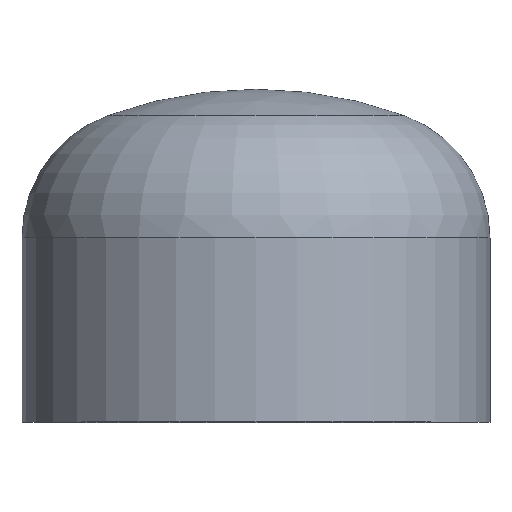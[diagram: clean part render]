
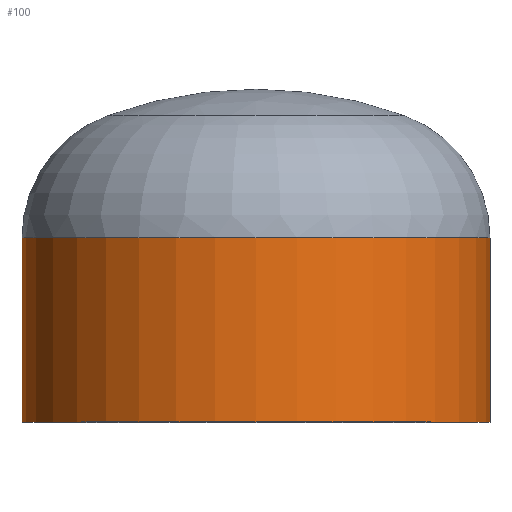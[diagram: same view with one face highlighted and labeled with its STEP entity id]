
A CAD part, top view. The second image highlights one B-rep face of the part: STEP entity #100.
In plain terms, the highlighted cylindrical face has radius 177.8 mm (diameter 355.6 mm), a partial arc.
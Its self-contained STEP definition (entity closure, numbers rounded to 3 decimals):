
#20 = ORIENTED_EDGE ( 'NONE', *, *, #154, .F. ) ;
#25 = CARTESIAN_POINT ( 'NONE',  ( -177.8, 140., 0. ) ) ;
#30 = ORIENTED_EDGE ( 'NONE', *, *, #342, .T. ) ;
#33 = VERTEX_POINT ( 'NONE', #182 ) ;
#37 = CARTESIAN_POINT ( 'NONE',  ( -177.8, 0., 0. ) ) ;
#39 = CYLINDRICAL_SURFACE ( 'NONE', #318, 177.8 ) ;
#40 = DIRECTION ( 'NONE',  ( 0., -1., 0. ) ) ;
#51 = VERTEX_POINT ( 'NONE', #74 ) ;
#69 = ORIENTED_EDGE ( 'NONE', *, *, #272, .T. ) ;
#74 = CARTESIAN_POINT ( 'NONE',  ( 177.8, 0., 0. ) ) ;
#100 = ADVANCED_FACE ( 'NONE', ( #304 ), #39, .T. ) ;
#107 = EDGE_LOOP ( 'NONE', ( #69, #30, #387, #20 ) ) ;
#120 = CIRCLE ( 'NONE', #190, 177.8 ) ;
#125 = VERTEX_POINT ( 'NONE', #25 ) ;
#148 = VECTOR ( 'NONE', #209, 1000. ) ;
#154 = EDGE_CURVE ( 'NONE', #33, #51, #295, .T. ) ;
#168 = CARTESIAN_POINT ( 'NONE',  ( -177.8, 0., 0. ) ) ;
#169 = VECTOR ( 'NONE', #195, 1000. ) ;
#177 = EDGE_CURVE ( 'NONE', #51, #246, #279, .T. ) ;
#178 = LINE ( 'NONE', #168, #169 ) ;
#182 = CARTESIAN_POINT ( 'NONE',  ( 177.8, 140., 0. ) ) ;
#188 = DIRECTION ( 'NONE',  ( 0., -1., 0. ) ) ;
#190 = AXIS2_PLACEMENT_3D ( 'NONE', #242, #40, #267 ) ;
#195 = DIRECTION ( 'NONE',  ( 0., -1., 0. ) ) ;
#209 = DIRECTION ( 'NONE',  ( 0., -1., 0. ) ) ;
#242 = CARTESIAN_POINT ( 'NONE',  ( 0., 140., 0. ) ) ;
#246 = VERTEX_POINT ( 'NONE', #37 ) ;
#267 = DIRECTION ( 'NONE',  ( 1., 0., 0. ) ) ;
#272 = EDGE_CURVE ( 'NONE', #33, #125, #120, .T. ) ;
#279 = CIRCLE ( 'NONE', #372, 177.8 ) ;
#295 = LINE ( 'NONE', #398, #148 ) ;
#304 = FACE_OUTER_BOUND ( 'NONE', #107, .T. ) ;
#313 = DIRECTION ( 'NONE',  ( 0., -1., 0. ) ) ;
#318 = AXIS2_PLACEMENT_3D ( 'NONE', #395, #313, #339 ) ;
#339 = DIRECTION ( 'NONE',  ( 1., 0., 0. ) ) ;
#342 = EDGE_CURVE ( 'NONE', #125, #246, #178, .T. ) ;
#344 = CARTESIAN_POINT ( 'NONE',  ( 0., 0., 0. ) ) ;
#371 = DIRECTION ( 'NONE',  ( 1., 0., 0. ) ) ;
#372 = AXIS2_PLACEMENT_3D ( 'NONE', #344, #188, #371 ) ;
#387 = ORIENTED_EDGE ( 'NONE', *, *, #177, .F. ) ;
#395 = CARTESIAN_POINT ( 'NONE',  ( 0., 0., 0. ) ) ;
#398 = CARTESIAN_POINT ( 'NONE',  ( 177.8, 0., 0. ) ) ;
